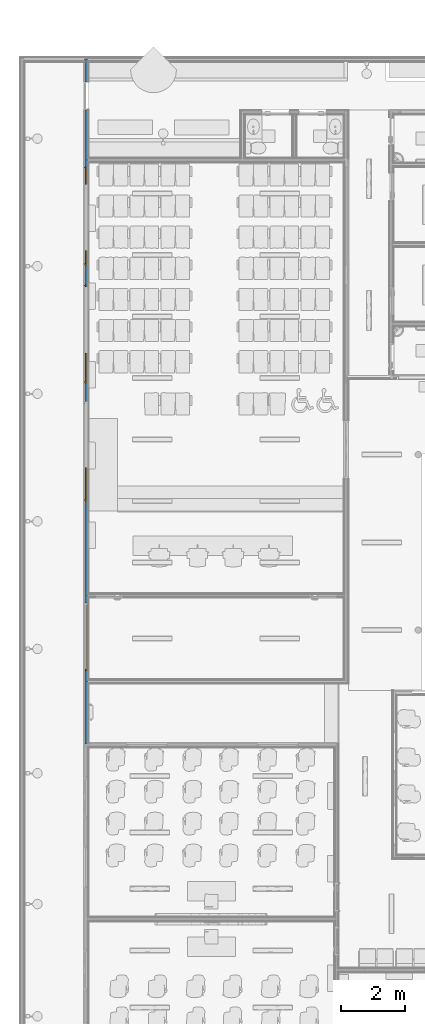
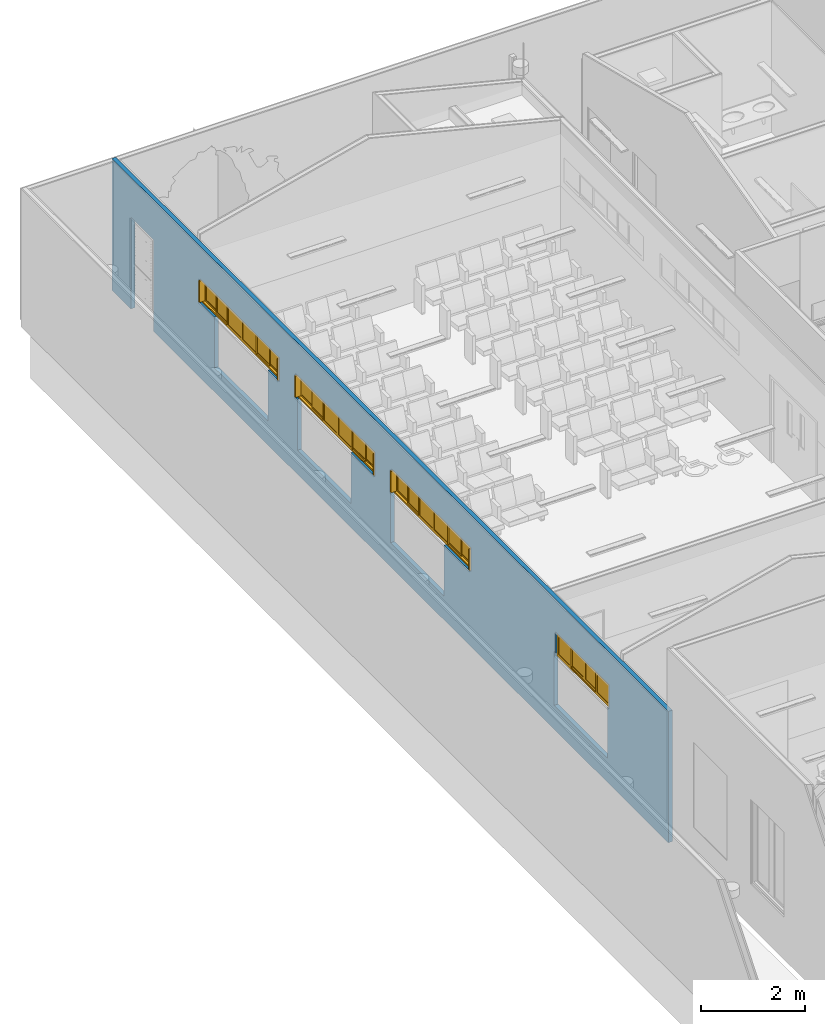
# One storey, part 26 of 155: 4 windows, 1 wall, 9 openings.
"""IFC2X3 building model written with IfcOpenShell, lengths in metres."""

import ifcopenshell
import ifcopenshell.guid

model = None  # the IFC model being written
_history = None  # IfcOwnerHistory: only IFC2X3 demands one
_inside = {}  # id of a spatial element -> (the spatial element, [elements in it])
_under = {}  # id of a project, library or spatial element -> (it, [spatial elements below it])
_declared = {}  # id of a project -> (the project, [libraries it declares])
_typed = {}  # id of a type object -> (the type object, [elements of that type])
_made_of = {}  # id of a material, layer set ... -> (it, [elements and type objects made of it])


def new_model(schema):
    """Start an empty IFC model of exactly this schema.

    Asked for "IFC4X3", IfcOpenShell would pick the latest addendum, in which some entities
    have other attributes; the version numbers below select the first issue.
    IFC2X3 requires an IfcOwnerHistory on every rooted entity: one is made here for all.
    """
    global model, _history
    if schema == "IFC4X3":
        model = ifcopenshell.file(schema_version=(4, 3, 0, 0))
    else:
        model = ifcopenshell.file(schema=schema)
    _inside.clear()
    _under.clear()
    _declared.clear()
    _typed.clear()
    _made_of.clear()
    _history = None
    if model.schema == "IFC2X3":
        org = make("IfcOrganization", Name="unknown")
        user = make(
            "IfcPersonAndOrganization",
            ThePerson=make("IfcPerson", FamilyName="unknown"),
            TheOrganization=org,
        )
        app = make(
            "IfcApplication",
            ApplicationDeveloper=org,
            Version="unknown",
            ApplicationFullName="unknown",
            ApplicationIdentifier="unknown",
        )
        _history = make(
            "IfcOwnerHistory",
            OwningUser=user,
            OwningApplication=app,
            ChangeAction="ADDED",
            CreationDate=0,
        )
    return model


def make(cls, **values):
    """One entity of the class cls with the attributes given. An attribute that is None is left unset."""
    return model.create_entity(
        cls, **{name: value for name, value in values.items() if value is not None}
    )


def entity(cls, *values):
    """Any entity or typed value of the class cls, its attributes in the order of the schema. None: left unset."""
    e = model.create_entity(cls)
    for i, value in enumerate(values):
        if value is not None:
            e[i] = value
    return e


def rooted(cls, **values):
    """An entity with a GlobalId (a new one), such as an element, a storey or a relation."""
    return make(cls, GlobalId=ifcopenshell.guid.new(), OwnerHistory=_history, **values)


def si_unit(unit_type, name, prefix=None):
    """IfcSIUnit, for example si_unit("LENGTHUNIT", "METRE", prefix="MILLI")."""
    return make("IfcSIUnit", UnitType=unit_type, Prefix=prefix, Name=name)


def converted_unit(unit_type, name, factor, base, dimensions=None, offset=None):
    """IfcConversionBasedUnit, such as the inch: factor (a typed value) times the base unit."""
    return make(
        "IfcConversionBasedUnit"
        if offset is None
        else "IfcConversionBasedUnitWithOffset",
        ConversionOffset=offset,
        Dimensions=None
        if dimensions is None
        else entity("IfcDimensionalExponents", *dimensions),
        UnitType=unit_type,
        Name=name,
        ConversionFactor=make(
            "IfcMeasureWithUnit", ValueComponent=factor, UnitComponent=base
        ),
    )


def derived_unit(unit_type, elements):
    """IfcDerivedUnit: a product of units, each with its exponent."""
    return make(
        "IfcDerivedUnit",
        Elements=[
            make("IfcDerivedUnitElement", Unit=unit, Exponent=power)
            for unit, power in elements
        ],
        UnitType=unit_type,
    )


def assignment(units):
    """IfcUnitAssignment: the units of a project."""
    return None if units is None else make("IfcUnitAssignment", Units=units)


def point(xyz):
    """IfcCartesianPoint."""
    return None if xyz is None else make("IfcCartesianPoint", Coordinates=xyz)


def direction(xyz):
    """IfcDirection."""
    return None if xyz is None else make("IfcDirection", DirectionRatios=xyz)


def frame(location, z_axis=None, x_axis=None):
    """IfcAxis2Placement3D, a coordinate frame: its origin and axes. An axis left out is left unset."""
    return make(
        "IfcAxis2Placement3D",
        Location=point(location),
        Axis=direction(z_axis),
        RefDirection=direction(x_axis),
    )


def frame_2d(location, x_axis=None):
    """IfcAxis2Placement2D, a coordinate frame in the plane: its origin and x axis."""
    return make(
        "IfcAxis2Placement2D", Location=point(location), RefDirection=direction(x_axis)
    )


def origin():
    """The frame at (0, 0, 0) with its axes left unset."""
    return frame((0.0, 0.0, 0.0))


def origin_2d_with_axis():
    """The frame at (0, 0) in the plane with the x axis (1, 0) written out."""
    return frame_2d((0.0, 0.0), x_axis=(1.0, 0.0))


def place(relative_to, where):
    """IfcLocalPlacement: puts the frame where relative to a parent placement (None: the world)."""
    return make(
        "IfcLocalPlacement", PlacementRelTo=relative_to, RelativePlacement=where
    )


def context(
    kind, dimensions, precision=None, world=None, true_north=None, identifier=None
):
    """IfcGeometricRepresentationContext, for example the 3D "Model" context."""
    return make(
        "IfcGeometricRepresentationContext",
        ContextIdentifier=identifier,
        ContextType=kind,
        CoordinateSpaceDimension=dimensions,
        Precision=precision,
        WorldCoordinateSystem=world,
        TrueNorth=true_north,
    )


def subcontext(parent, identifier, kind, view, scale=None):
    """IfcGeometricRepresentationSubContext, for example "Body" below "Model"."""
    return make(
        "IfcGeometricRepresentationSubContext",
        ContextIdentifier=identifier,
        ContextType=kind,
        ParentContext=parent,
        TargetScale=scale,
        TargetView=view,
    )


def project(units=None, contexts=None):
    """IfcProject with its units and contexts."""
    return rooted(
        "IfcProject",
        Name="project",
        RepresentationContexts=contexts,
        UnitsInContext=assignment(units),
    )


def spatial(cls, under=None, at=None, **own):
    """A site, building, storey or space (cls), placed at a placement, below another one or the project."""
    s = rooted(cls, ObjectPlacement=at, **own)
    if under is not None:
        _under.setdefault(under.id(), (under, []))[1].append(s)
    return s


def polyline(points):
    """IfcPolyline through the points."""
    return make("IfcPolyline", Points=[point(p) for p in points])


def profile(cls, at=None, kind="AREA", **sizes):
    """A parametric profile (cls). Its sizes go by their IFC names, for example OverallWidth=200.0."""
    return make(cls, ProfileType=kind, Position=at, **sizes)


def rectangle(**sizes):
    """IfcRectangleProfileDef."""
    return profile("IfcRectangleProfileDef", **sizes)


def outline(outer, holes=None, kind="AREA"):
    """IfcArbitraryClosedProfileDef: a profile drawn as a closed curve; with holes, ...WithVoids."""
    if holes is None:
        return make("IfcArbitraryClosedProfileDef", ProfileType=kind, OuterCurve=outer)
    return make(
        "IfcArbitraryProfileDefWithVoids",
        ProfileType=kind,
        OuterCurve=outer,
        InnerCurves=holes,
    )


def extrude(swept, where, along, depth):
    """IfcExtrudedAreaSolid: the profile swept, set in the frame where, extruded along a direction by depth."""
    return make(
        "IfcExtrudedAreaSolid",
        SweptArea=swept,
        Position=where,
        ExtrudedDirection=direction(along),
        Depth=depth,
    )


def shape(context_of_items, identifier, shape_type, items):
    """IfcShapeRepresentation: the items that make up one representation, for example the "Body"."""
    return make(
        "IfcShapeRepresentation",
        ContextOfItems=context_of_items,
        RepresentationIdentifier=identifier,
        RepresentationType=shape_type,
        Items=items,
    )


def source(mapping_origin, context_of_items, identifier, shape_type, items):
    """IfcRepresentationMap: a shape defined once, which mapped items show again and again."""
    return make(
        "IfcRepresentationMap",
        MappingOrigin=mapping_origin,
        MappedRepresentation=shape(context_of_items, identifier, shape_type, items),
    )


def transform(
    local_origin,
    x_axis=None,
    y_axis=None,
    z_axis=None,
    scale=None,
    scale2=None,
    scale3=None,
    uniform=True,
):
    """IfcCartesianTransformationOperator3D, or its non-uniform kind. x_axis, y_axis, z_axis: its Axis1, 2, 3."""
    if uniform:
        return make(
            "IfcCartesianTransformationOperator3D",
            Axis1=direction(x_axis),
            Axis2=direction(y_axis),
            LocalOrigin=point(local_origin),
            Scale=scale,
            Axis3=direction(z_axis),
        )
    return make(
        "IfcCartesianTransformationOperator3DnonUniform",
        Axis1=direction(x_axis),
        Axis2=direction(y_axis),
        LocalOrigin=point(local_origin),
        Scale=scale,
        Axis3=direction(z_axis),
        Scale2=scale2,
        Scale3=scale3,
    )


def mapped(mapping_source, mapping_target):
    """IfcMappedItem: shows the shape of a source again, moved by a transform."""
    return make(
        "IfcMappedItem", MappingSource=mapping_source, MappingTarget=mapping_target
    )


def material(Name=None, Category=None):
    """IfcMaterial."""
    return make("IfcMaterial", Name=Name, Category=Category)


def material_list(materials):
    """IfcMaterialList."""
    return make("IfcMaterialList", Materials=materials)


def layer(
    of_material, thickness, ventilated=None, Name=None, Category=None, Priority=None
):
    """IfcMaterialLayer: one layer of a wall or slab, of a material (None: an air gap)."""
    return make(
        "IfcMaterialLayer",
        Material=of_material,
        LayerThickness=thickness,
        IsVentilated=ventilated,
        Name=Name,
        Category=Category,
        Priority=Priority,
    )


def layer_set(layers, Name=None):
    """IfcMaterialLayerSet."""
    return make("IfcMaterialLayerSet", MaterialLayers=layers, LayerSetName=Name)


def layer_usage(for_layer_set, set_direction, sense, offset, extent=None):
    """IfcMaterialLayerSetUsage: how a layer set lies in its element."""
    return make(
        "IfcMaterialLayerSetUsage",
        ForLayerSet=for_layer_set,
        LayerSetDirection=set_direction,
        DirectionSense=sense,
        OffsetFromReferenceLine=offset,
        ReferenceExtent=extent,
    )


def made_of(thing, what):
    """Note that an element or type object is made of a material, layer set ...; save() writes the relation."""
    if what is not None:
        _made_of.setdefault(what.id(), (what, []))[1].append(thing)
    return thing


def type_object(cls, material=None, **own):
    """A type object (cls), such as IfcWallType, which elements share."""
    return made_of(rooted(cls, **own), material)


def type_shapes(of_type, sources):
    """Give a type object the sources (RepresentationMaps) that its elements show as mapped items."""
    of_type.RepresentationMaps = sources


def element(
    cls,
    number,
    at=None,
    inside=None,
    cuts=None,
    type_object=None,
    material=None,
    context=None,
    identifier="Body",
    shape_type=None,
    held_by="IfcProductDefinitionShape",
    body=None,
    shapes=None,
    **own,
):
    """One element of the class cls, such as IfcWall. Its Tag is "e" and its number.

    at: its placement. inside: the storey or other place that contains it. cuts: it is an
    opening in that element (IfcRelVoidsElement). A single representation is given by context,
    identifier, shape_type and body (its items); several are given by shapes. held_by: the class
    of the entity that holds the representations. save() writes the other relations.
    """
    e = rooted(cls, Tag="e%d" % number, ObjectPlacement=at, **own)
    if body is not None:
        shapes = [shape(context, identifier, shape_type, body)]
    if shapes is not None:
        e.Representation = make(held_by, Representations=shapes)
    if inside is not None:
        _inside.setdefault(inside.id(), (inside, []))[1].append(e)
    if cuts is not None:
        rooted(
            "IfcRelVoidsElement", RelatingBuildingElement=cuts, RelatedOpeningElement=e
        )
    if type_object is not None:
        _typed.setdefault(type_object.id(), (type_object, []))[1].append(e)
    return made_of(e, material)


def fill(opening, filler):
    """IfcRelFillsElement: the door or window that sits in an opening."""
    return rooted(
        "IfcRelFillsElement",
        RelatingOpeningElement=opening,
        RelatedBuildingElement=filler,
    )


def aggregate(whole, parts):
    """IfcRelAggregates: a whole, such as a stair, and the parts it consists of."""
    return rooted("IfcRelAggregates", RelatingObject=whole, RelatedObjects=parts)


def save(model, path):
    """Write the relations noted so far, then the file.

    IfcRelAggregates (storeys below a building ...), IfcRelContainedInSpatialStructure (elements
    in a storey), IfcRelDefinesByType, IfcRelAssociatesMaterial and IfcRelDeclares: one each for
    every whole, place, type object, material and project.
    """
    for whole, parts in _under.values():
        aggregate(whole, parts)
    for where, things in _inside.values():
        rooted(
            "IfcRelContainedInSpatialStructure",
            RelatedElements=things,
            RelatingStructure=where,
        )
    for kind, things in _typed.values():
        rooted("IfcRelDefinesByType", RelatedObjects=things, RelatingType=kind)
    for what, things in _made_of.values():
        rooted("IfcRelAssociatesMaterial", RelatedObjects=things, RelatingMaterial=what)
    for by, libraries in _declared.values():
        rooted("IfcRelDeclares", RelatingContext=by, RelatedDefinitions=libraries)
    model.write(path)


model = new_model("IFC2X3")

# Units and contexts
model_context = context("Model", 3, precision=1e-05, world=origin(), true_north=direction((6.12303176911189e-17, 1.0)))
body_context = subcontext(model_context, "Body", "Model", "MODEL_VIEW")
ifc_project = project(units=[si_unit("LENGTHUNIT", "METRE"), si_unit("AREAUNIT", "SQUARE_METRE"), si_unit("VOLUMEUNIT", "CUBIC_METRE"), converted_unit("PLANEANGLEUNIT", "DEGREE", entity("IfcRatioMeasure", 0.0174532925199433), si_unit("PLANEANGLEUNIT", "RADIAN"), dimensions=[0, 0, 0, 0, 0, 0, 0]), si_unit("MASSUNIT", "GRAM", prefix="KILO"), derived_unit("MASSDENSITYUNIT", [(si_unit("MASSUNIT", "GRAM", prefix="KILO"), 1), (si_unit("LENGTHUNIT", "METRE"), -3)]), si_unit("TIMEUNIT", "SECOND"), si_unit("FREQUENCYUNIT", "HERTZ"), si_unit("THERMODYNAMICTEMPERATUREUNIT", "DEGREE_CELSIUS"), derived_unit("THERMALTRANSMITTANCEUNIT", [(si_unit("MASSUNIT", "GRAM", prefix="KILO"), 1), (si_unit("THERMODYNAMICTEMPERATUREUNIT", "KELVIN"), -1), (si_unit("TIMEUNIT", "SECOND"), -3)]), derived_unit("VOLUMETRICFLOWRATEUNIT", [(si_unit("LENGTHUNIT", "METRE"), 3), (si_unit("TIMEUNIT", "SECOND"), -1)]), si_unit("ELECTRICCURRENTUNIT", "AMPERE"), si_unit("ELECTRICVOLTAGEUNIT", "VOLT"), si_unit("POWERUNIT", "WATT"), si_unit("FORCEUNIT", "NEWTON", prefix="KILO"), si_unit("ILLUMINANCEUNIT", "LUX"), si_unit("LUMINOUSFLUXUNIT", "LUMEN"), si_unit("LUMINOUSINTENSITYUNIT", "CANDELA"), derived_unit("USERDEFINED", [(si_unit("MASSUNIT", "GRAM", prefix="KILO"), -1), (si_unit("LENGTHUNIT", "METRE"), -2), (si_unit("TIMEUNIT", "SECOND"), 3), (si_unit("LUMINOUSFLUXUNIT", "LUMEN"), 1)]), derived_unit("LINEARVELOCITYUNIT", [(si_unit("LENGTHUNIT", "METRE"), 1), (si_unit("TIMEUNIT", "SECOND"), -1)]), si_unit("PRESSUREUNIT", "PASCAL"), derived_unit("USERDEFINED", [(si_unit("LENGTHUNIT", "METRE"), -2), (si_unit("MASSUNIT", "GRAM", prefix="KILO"), 1), (si_unit("TIMEUNIT", "SECOND"), -2)])], contexts=[model_context])

# Site, building, storey
site_placement = place(None, frame((26.9889013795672, -17.5624287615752, 0.0)))
site = spatial("IfcSite", under=ifc_project, at=site_placement, Name="Default", CompositionType="ELEMENT")
building_placement = place(site_placement, origin())
building = spatial("IfcBuilding", under=site, at=building_placement, Name="C. C. L. Monsenhor Antônio Sampaio", CompositionType="ELEMENT")
storey_placement = place(building_placement, frame((0.0, 0.0, 1.19999999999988)))
storey = spatial("IfcBuildingStorey", under=building, at=storey_placement, Name="Nível 1.2", CompositionType="ELEMENT", Elevation=1.19999999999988)

# Wall, openings, windows
ifc_material_1 = material(Name="ALVENARIA")
ifc_layer = layer(ifc_material_1, 0.09)
ifc_layer_set = layer_set([ifc_layer], Name="Parede básica:ENucleo parede 15cm")
ifc_layer_usage = layer_usage(ifc_layer_set, "AXIS2", "POSITIVE", -0.045)
wall_type = type_object("IfcWallType", Name="Parede básica:ENucleo parede 15cm", PredefinedType="STANDARD", material=ifc_layer_set)
wall_placement = place(storey_placement, frame((-14.065552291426, -28.333066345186, 0.0), z_axis=(0.0, 0.0, 1.0), x_axis=(0.0, 1.0, 0.0)))
wall = element("IfcWallStandardCase", 1, at=wall_placement, inside=storey, type_object=wall_type, material=ifc_layer_usage, Name="Parede básica:ENucleo parede 15cm", ObjectType="Parede básica:ENucleo parede 15cm", context=body_context, shape_type="SweptSolid", body=[
    extrude(rectangle(XDim=21.4999999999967, YDim=0.0900000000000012, at=frame_2d((10.7499999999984, -1.97758476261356e-16), x_axis=(-1.0, 0.0))), origin(), (0.0, 0.0, 1.0), 3.10000000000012),
])
opening_1_placement = place(wall_placement, frame((15.0250000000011, -0.0450000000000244, 1.76500000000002)))
opening_1 = element("IfcOpeningElement", 2, at=opening_1_placement, cuts=wall, Name="Janela 300x110:300 x 50:1", ObjectType="Opening", context=body_context, shape_type="SweptSolid", body=[
    extrude(rectangle(XDim=0.569999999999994, YDim=3.06999999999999, at=frame_2d((0.284999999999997, 1.535), x_axis=(1.0, 0.0))), frame((0.0, 0.0, 0.0), z_axis=(0.0, 1.0, 0.0), x_axis=(0.0, 0.0, 1.0)), (0.0, 0.0, 1.0), 0.09),
])
opening_2_placement = place(wall_placement, frame((28.333066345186, -14.065552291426, 0.0), z_axis=(0.0, 0.0, 1.0), x_axis=(0.0, -1.0, 0.0)))
element("IfcOpeningElement", 3, at=opening_2_placement, cuts=wall, Name="Parede básica:ENucleo parede 15cm", ObjectType="Opening", context=body_context, shape_type="SweptSolid", body=[
    extrude(rectangle(XDim=1.27000000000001, YDim=2.07, at=frame_2d((1.11022302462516e-15, 1.66533453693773e-16), x_axis=(0.0, 1.0))), frame((-12.496552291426, -11.8330663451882, 1.20000000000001), z_axis=(-1.0, 0.0, 0.0), x_axis=(0.0, -1.0, 0.0)), (0.0, 0.0, 1.0), 3.048),
])
opening_3_placement = place(wall_placement, frame((11.3250000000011, -0.0450000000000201, 1.76500000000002)))
opening_3 = element("IfcOpeningElement", 4, at=opening_3_placement, cuts=wall, Name="Janela 300x110:300 x 50:1", ObjectType="Opening", context=body_context, shape_type="SweptSolid", body=[
    extrude(rectangle(XDim=0.569999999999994, YDim=3.06999999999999, at=frame_2d((0.284999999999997, 1.535), x_axis=(1.0, 0.0))), frame((0.0, 0.0, 0.0), z_axis=(0.0, 1.0, 0.0), x_axis=(0.0, 0.0, 1.0)), (0.0, 0.0, 1.0), 0.09),
])
opening_4_placement = place(wall_placement, frame((28.333066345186, -14.065552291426, 0.0), z_axis=(0.0, 0.0, 1.0), x_axis=(0.0, -1.0, 0.0)))
element("IfcOpeningElement", 5, at=opening_4_placement, cuts=wall, Name="Parede básica:ENucleo parede 15cm", ObjectType="Opening", context=body_context, shape_type="SweptSolid", body=[
    extrude(rectangle(XDim=1.27000000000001, YDim=2.07, at=frame_2d((1.11022302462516e-15, 1.66533453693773e-16), x_axis=(0.0, 1.0))), frame((-12.496552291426, -15.0330663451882, 1.20000000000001), z_axis=(-1.0, 0.0, 0.0), x_axis=(0.0, -1.0, 0.0)), (0.0, 0.0, 1.0), 3.048),
])
opening_5_placement = place(wall_placement, frame((7.62500000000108, -0.0450000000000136, 1.76500000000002)))
opening_5 = element("IfcOpeningElement", 6, at=opening_5_placement, cuts=wall, Name="Janela 300x110:300 x 50:1", ObjectType="Opening", context=body_context, shape_type="SweptSolid", body=[
    extrude(rectangle(XDim=0.569999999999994, YDim=3.06999999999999, at=frame_2d((0.284999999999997, 1.535), x_axis=(1.0, 0.0))), frame((0.0, 0.0, 0.0), z_axis=(0.0, 1.0, 0.0), x_axis=(0.0, 0.0, 1.0)), (0.0, 0.0, 1.0), 0.09),
])
opening_6_placement = place(wall_placement, frame((28.333066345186, -14.065552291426, 0.0), z_axis=(0.0, 0.0, 1.0), x_axis=(0.0, -1.0, 0.0)))
element("IfcOpeningElement", 7, at=opening_6_placement, cuts=wall, Name="Parede básica:ENucleo parede 15cm", ObjectType="Opening", context=body_context, shape_type="SweptSolid", body=[
    extrude(rectangle(XDim=1.27000000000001, YDim=2.07, at=frame_2d((0.0, 1.66533453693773e-16), x_axis=(0.0, 1.0))), frame((-12.496552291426, -18.6330663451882, 1.20000000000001), z_axis=(-1.0, 0.0, 0.0), x_axis=(0.0, -1.0, 0.0)), (0.0, 0.0, 1.0), 3.048),
])
opening_7_placement = place(wall_placement, frame((2.28500000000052, -0.045000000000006, 1.76500000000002)))
opening_7 = element("IfcOpeningElement", 8, at=opening_7_placement, cuts=wall, Name="Janela 200x110:200 x 50:1", ObjectType="Opening", context=body_context, shape_type="SweptSolid", body=[
    extrude(rectangle(XDim=0.570000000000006, YDim=2.07, at=frame_2d((0.285000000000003, 1.035), x_axis=(1.0, 0.0))), frame((0.0, 0.0, 0.0), z_axis=(0.0, 1.0, 0.0), x_axis=(0.0, 0.0, 1.0)), (0.0, 0.0, 1.0), 0.09),
])
opening_8_placement = place(wall_placement, frame((28.333066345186, -14.065552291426, 0.0), z_axis=(0.0, 0.0, 1.0), x_axis=(0.0, -1.0, 0.0)))
element("IfcOpeningElement", 9, at=opening_8_placement, cuts=wall, Name="Parede básica:ENucleo parede 15cm", ObjectType="Opening", context=body_context, shape_type="SweptSolid", body=[
    extrude(rectangle(XDim=1.27000000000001, YDim=2.07, at=frame_2d((0.0, 1.66533453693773e-16), x_axis=(0.0, 1.0))), frame((-12.496552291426, -24.9530663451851, 1.20000000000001), z_axis=(-1.0, 0.0, 0.0), x_axis=(0.0, -1.0, 0.0)), (0.0, 0.0, 1.0), 3.048),
])
opening_9_placement = place(wall_placement, frame((19.8799999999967, -0.0450000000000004, 0.0)))
element("IfcOpeningElement", 10, at=opening_9_placement, cuts=wall, Name="Porta de abrir com veneziana ventilada - PAVV:LIXEIRA E CASA DE GÁS:1", ObjectType="Opening", context=body_context, shape_type="SweptSolid", body=[
    extrude(rectangle(XDim=2.15999999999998, YDim=0.88, at=frame_2d((1.07999999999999, 0.439999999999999), x_axis=(1.0, 0.0))), frame((0.0, 0.0, 0.0), z_axis=(0.0, 1.0, 0.0), x_axis=(0.0, 0.0, 1.0)), (0.0, 0.0, 1.0), 0.09),
])
ifc_material_2 = material(Name="VIDRO COMUM LISO VERDE")
ifc_material_3 = material(Name="ALUMÍNIO COM PINTURA ELETROSTÁTICA BRANCA")
ifc_material_list_1 = material_list([ifc_material_2, ifc_material_3])
ifc_material_list_2 = material_list([ifc_material_2, ifc_material_3])
window_style_1 = type_object("IfcWindowStyle", Name="300 x 50", ConstructionType="NOTDEFINED", OperationType="NOTDEFINED", ParameterTakesPrecedence=False, Sizeable=False, material=ifc_material_list_2)
shared_shape_1 = source(origin(), body_context, "Body", "SweptSolid", [
    extrude(rectangle(XDim=0.49, YDim=0.00599999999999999, at=origin_2d_with_axis()), frame((1.255, 0.0324999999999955, 0.0699999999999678), z_axis=(0.0, 0.0, 1.0), x_axis=(-1.0, 0.0, 0.0)), (0.0, 0.0, 1.0), 0.43),
    extrude(outline(polyline([(-0.250000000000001, -0.28), (0.250000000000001, -0.28), (0.250000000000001, 0.28), (-0.250000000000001, 0.28), (-0.250000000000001, -0.28)]), holes=[polyline([(-0.215000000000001, -0.245), (-0.215000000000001, 0.245), (0.215000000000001, 0.245), (0.215000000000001, -0.245), (-0.215000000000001, -0.245)])]), frame((1.255, 0.0199999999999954, 0.284999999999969), z_axis=(0.0, 1.0, 0.0), x_axis=(0.0, 0.0, -1.0)), (0.0, 0.0, 1.0), 0.025),
    extrude(rectangle(XDim=0.49, YDim=0.00599999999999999, at=frame_2d((-1.38777878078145e-16, 0.0), x_axis=(1.0, 0.0))), frame((0.314999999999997, -0.0175, 0.0699999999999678), z_axis=(0.0, 0.0, 1.0), x_axis=(-1.0, 0.0, 0.0)), (0.0, 0.0, 1.0), 0.43),
    extrude(outline(polyline([(-0.250000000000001, -0.28), (0.250000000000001, -0.28), (0.250000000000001, 0.28), (-0.250000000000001, 0.28), (-0.250000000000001, -0.28)]), holes=[polyline([(-0.215000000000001, -0.245), (-0.215000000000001, 0.245), (0.215000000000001, 0.245), (0.215000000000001, -0.245), (-0.215000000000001, -0.245)])]), frame((0.314999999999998, -0.0300000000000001, 0.284999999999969), z_axis=(0.0, 1.0, 0.0), x_axis=(0.0, 0.0, -1.0)), (0.0, 0.0, 1.0), 0.025),
    extrude(rectangle(XDim=0.49, YDim=0.00599999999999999, at=origin_2d_with_axis()), frame((0.784403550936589, 0.00749999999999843, 0.0699999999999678), z_axis=(0.0, 0.0, 1.0), x_axis=(-1.0, 0.0, 0.0)), (0.0, 0.0, 1.0), 0.43),
    extrude(outline(polyline([(-0.250000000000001, -0.28), (0.250000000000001, -0.28), (0.250000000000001, 0.28), (-0.250000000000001, 0.28), (-0.250000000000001, -0.28)]), holes=[polyline([(-0.215000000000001, -0.245), (-0.215000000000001, 0.245), (0.215000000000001, 0.245), (0.215000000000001, -0.245), (-0.215000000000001, -0.245)])]), frame((0.784403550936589, -0.00500000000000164, 0.284999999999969), z_axis=(0.0, 1.0, 0.0), x_axis=(0.0, 0.0, -1.0)), (0.0, 0.0, 1.0), 0.025),
    extrude(rectangle(XDim=0.00599999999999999, YDim=0.49, at=origin_2d_with_axis()), frame((1.81499999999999, 0.0324999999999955, 0.0699999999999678), z_axis=(0.0, 0.0, 1.0), x_axis=(0.0, -1.0, 0.0)), (0.0, 0.0, 1.0), 0.43),
    extrude(outline(polyline([(-0.28, -0.250000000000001), (0.28, -0.250000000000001), (0.28, 0.250000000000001), (-0.28, 0.250000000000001), (-0.28, -0.250000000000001)]), holes=[polyline([(-0.245, -0.215000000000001), (-0.245, 0.215000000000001), (0.245, 0.215000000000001), (0.245, -0.215000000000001), (-0.245, -0.215000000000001)])]), frame((1.81499999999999, 0.0199999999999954, 0.284999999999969), z_axis=(0.0, 1.0, 0.0), x_axis=(1.0, 0.0, 0.0)), (0.0, 0.0, 1.0), 0.025),
    extrude(rectangle(XDim=0.00599999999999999, YDim=0.49, at=frame_2d((0.0, 1.38777878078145e-16), x_axis=(1.0, 0.0))), frame((2.75499999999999, -0.0175, 0.0699999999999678), z_axis=(0.0, 0.0, 1.0), x_axis=(0.0, -1.0, 0.0)), (0.0, 0.0, 1.0), 0.43),
    extrude(outline(polyline([(-0.28, -0.250000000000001), (0.28, -0.250000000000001), (0.28, 0.250000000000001), (-0.28, 0.250000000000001), (-0.28, -0.250000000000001)]), holes=[polyline([(-0.245, -0.215000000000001), (-0.245, 0.215000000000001), (0.245, 0.215000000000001), (0.245, -0.215000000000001), (-0.245, -0.215000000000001)])]), frame((2.75499999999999, -0.0300000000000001, 0.284999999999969), z_axis=(0.0, 1.0, 0.0), x_axis=(1.0, 0.0, 0.0)), (0.0, 0.0, 1.0), 0.025),
    extrude(rectangle(XDim=0.00599999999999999, YDim=0.49, at=origin_2d_with_axis()), frame((2.2855964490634, 0.00749999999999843, 0.0699999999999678), z_axis=(0.0, 0.0, 1.0), x_axis=(0.0, -1.0, 0.0)), (0.0, 0.0, 1.0), 0.43),
    extrude(outline(polyline([(-0.28, -0.250000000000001), (0.28, -0.250000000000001), (0.28, 0.250000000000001), (-0.28, 0.250000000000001), (-0.28, -0.250000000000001)]), holes=[polyline([(-0.245, -0.215000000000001), (-0.245, 0.215000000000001), (0.245, 0.215000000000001), (0.245, -0.215000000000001), (-0.245, -0.215000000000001)])]), frame((2.2855964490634, -0.00500000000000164, 0.284999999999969), z_axis=(0.0, 1.0, 0.0), x_axis=(1.0, 0.0, 0.0)), (0.0, 0.0, 1.0), 0.025),
    extrude(rectangle(XDim=0.075, YDim=3.07, at=origin_2d_with_axis()), frame((1.535, 0.0075, 0.0), z_axis=(0.0, 0.0, 1.0), x_axis=(0.0, -1.0, 0.0)), (0.0, 0.0, 1.0), 0.0349999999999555),
    extrude(rectangle(XDim=0.15, YDim=0.0349999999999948, at=origin_2d_with_axis()), frame((3.05249999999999, 0.045, 0.0349999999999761), z_axis=(0.0, 0.0, 1.0), x_axis=(0.0, -1.0, 0.0)), (0.0, 0.0, 1.0), 0.500000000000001),
    extrude(rectangle(XDim=0.15, YDim=0.0349999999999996, at=origin_2d_with_axis()), frame((0.0174999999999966, 0.045, 0.0349999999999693), z_axis=(0.0, 0.0, 1.0), x_axis=(0.0, -1.0, 0.0)), (0.0, 0.0, 1.0), 0.500000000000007),
    extrude(rectangle(XDim=0.075, YDim=3.06999999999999, at=frame_2d((3.46944695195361e-18, 0.0), x_axis=(1.0, 0.0))), frame((1.535, 0.0075, 0.534999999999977), z_axis=(0.0, 0.0, 1.0), x_axis=(0.0, -1.0, 0.0)), (0.0, 0.0, 1.0), 0.0350000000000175),
])
type_shapes(window_style_1, [shared_shape_1])
window_1_placement = place(opening_1_placement, origin())
window_1 = element("IfcWindow", 11, at=window_1_placement, inside=storey, type_object=window_style_1, material=ifc_material_list_1, Name="Janela 300x110:300 x 50", ObjectType="300 x 50", OverallHeight=0.569999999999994, OverallWidth=3.07, context=body_context, shape_type="MappedRepresentation", body=[
    mapped(shared_shape_1, transform((0.0, 0.0, 0.0), scale=1.0)),
])
fill(opening_1, window_1)
ifc_material_list_3 = material_list([ifc_material_2, ifc_material_3])
window_2_placement = place(opening_3_placement, origin())
window_2 = element("IfcWindow", 12, at=window_2_placement, inside=storey, type_object=window_style_1, material=ifc_material_list_3, Name="Janela 300x110:300 x 50", ObjectType="300 x 50", OverallHeight=0.569999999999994, OverallWidth=3.07, context=body_context, shape_type="MappedRepresentation", body=[
    mapped(shared_shape_1, transform((0.0, 0.0, 0.0), scale=1.0)),
])
fill(opening_3, window_2)
ifc_material_list_4 = material_list([ifc_material_2, ifc_material_3])
window_3_placement = place(opening_5_placement, origin())
window_3 = element("IfcWindow", 13, at=window_3_placement, inside=storey, type_object=window_style_1, material=ifc_material_list_4, Name="Janela 300x110:300 x 50", ObjectType="300 x 50", OverallHeight=0.569999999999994, OverallWidth=3.07, context=body_context, shape_type="MappedRepresentation", body=[
    mapped(shared_shape_1, transform((0.0, 0.0, 0.0), scale=1.0)),
])
fill(opening_5, window_3)
ifc_material_list_5 = material_list([ifc_material_2, ifc_material_3])
ifc_material_list_6 = material_list([ifc_material_2, ifc_material_3])
window_style_2 = type_object("IfcWindowStyle", Name="200 x 50", ConstructionType="NOTDEFINED", OperationType="NOTDEFINED", ParameterTakesPrecedence=False, Sizeable=False, material=ifc_material_list_6)
shared_shape_2 = source(origin(), body_context, "Body", "SweptSolid", [
    extrude(rectangle(XDim=0.425, YDim=0.00599999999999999, at=origin_2d_with_axis()), frame((1.7725, 0.058375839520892, 0.0849999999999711), z_axis=(0.0, 0.0, 1.0), x_axis=(-1.0, 0.0, 0.0)), (0.0, 0.0, 1.0), 0.4),
    extrude(outline(polyline([(-0.250000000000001, -0.2625), (0.250000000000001, -0.2625), (0.250000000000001, 0.2625), (-0.250000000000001, 0.2625), (-0.250000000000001, -0.2625)]), holes=[polyline([(-0.200000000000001, -0.2125), (-0.200000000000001, 0.2125), (0.200000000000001, 0.2125), (0.200000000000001, -0.2125), (-0.200000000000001, -0.2125)])]), frame((1.7725, 0.0458758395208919, 0.284999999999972), z_axis=(0.0, 1.0, 0.0), x_axis=(0.0, 0.0, -1.0)), (0.0, 0.0, 1.0), 0.025),
    extrude(rectangle(XDim=0.00599999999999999, YDim=0.425, at=origin_2d_with_axis()), frame((1.2975, 0.0333758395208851, 0.0849999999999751), z_axis=(0.0, 0.0, 1.0), x_axis=(0.0, -1.0, 0.0)), (0.0, 0.0, 1.0), 0.4),
    extrude(outline(polyline([(-0.2625, -0.250000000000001), (0.2625, -0.250000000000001), (0.2625, 0.250000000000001), (-0.2625, 0.250000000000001), (-0.2625, -0.250000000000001)]), holes=[polyline([(-0.2125, -0.200000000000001), (-0.2125, 0.200000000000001), (0.2125, 0.200000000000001), (0.2125, -0.200000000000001), (-0.2125, -0.200000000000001)])]), frame((1.2975, 0.020875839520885, 0.284999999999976), z_axis=(0.0, 1.0, 0.0), x_axis=(1.0, 0.0, 0.0)), (0.0, 0.0, 1.0), 0.025),
    extrude(rectangle(XDim=0.00599999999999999, YDim=0.425, at=frame_2d((0.0, 2.77555756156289e-17), x_axis=(1.0, 0.0))), frame((0.297499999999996, 0.058375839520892, 0.0849999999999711), z_axis=(0.0, 0.0, 1.0), x_axis=(0.0, -1.0, 0.0)), (0.0, 0.0, 1.0), 0.4),
    extrude(outline(polyline([(-0.2625, -0.250000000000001), (0.2625, -0.250000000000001), (0.2625, 0.250000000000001), (-0.2625, 0.250000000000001), (-0.2625, -0.250000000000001)]), holes=[polyline([(-0.2125, -0.200000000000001), (-0.2125, 0.200000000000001), (0.2125, 0.200000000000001), (0.2125, -0.200000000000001), (-0.2125, -0.200000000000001)])]), frame((0.297499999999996, 0.0458758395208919, 0.284999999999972), z_axis=(0.0, 1.0, 0.0), x_axis=(1.0, 0.0, 0.0)), (0.0, 0.0, 1.0), 0.025),
    extrude(rectangle(XDim=0.425, YDim=0.00599999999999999, at=origin_2d_with_axis()), frame((0.772499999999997, 0.0333758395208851, 0.0849999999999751), z_axis=(0.0, 0.0, 1.0), x_axis=(-1.0, 0.0, 0.0)), (0.0, 0.0, 1.0), 0.4),
    extrude(outline(polyline([(-0.250000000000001, -0.2625), (0.250000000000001, -0.2625), (0.250000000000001, 0.2625), (-0.250000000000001, 0.2625), (-0.250000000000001, -0.2625)]), holes=[polyline([(-0.200000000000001, -0.2125), (-0.200000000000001, 0.2125), (0.200000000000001, 0.2125), (0.200000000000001, -0.2125), (-0.200000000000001, -0.2125)])]), frame((0.772499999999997, 0.020875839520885, 0.284999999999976), z_axis=(0.0, 1.0, 0.0), x_axis=(0.0, 0.0, -1.0)), (0.0, 0.0, 1.0), 0.025),
    extrude(rectangle(XDim=0.06, YDim=0.0349999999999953, at=origin_2d_with_axis()), frame((2.05249999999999, 0.03, 0.0349999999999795), z_axis=(0.0, 0.0, 1.0), x_axis=(0.0, -1.0, 0.0)), (0.0, 0.0, 1.0), 0.500000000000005),
    extrude(rectangle(XDim=0.06, YDim=0.0349999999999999, at=origin_2d_with_axis()), frame((0.0174999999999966, 0.03, 0.0349999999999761), z_axis=(0.0, 0.0, 1.0), x_axis=(0.0, -1.0, 0.0)), (0.0, 0.0, 1.0), 0.500000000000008),
    extrude(rectangle(XDim=0.06, YDim=2.07, at=origin_2d_with_axis()), frame((1.035, 0.03, 0.0), z_axis=(0.0, 0.0, 1.0), x_axis=(0.0, -1.0, 0.0)), (0.0, 0.0, 1.0), 0.0349999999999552),
    extrude(rectangle(XDim=0.03, YDim=2.07, at=origin_2d_with_axis()), frame((1.035, 0.015, 0.534999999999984), z_axis=(0.0, 0.0, 1.0), x_axis=(0.0, -1.0, 0.0)), (0.0, 0.0, 1.0), 0.0350000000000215),
])
type_shapes(window_style_2, [shared_shape_2])
window_4_placement = place(opening_7_placement, origin())
window_4 = element("IfcWindow", 14, at=window_4_placement, inside=storey, type_object=window_style_2, material=ifc_material_list_5, Name="Janela 200x110:200 x 50", ObjectType="200 x 50", OverallHeight=0.570000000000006, OverallWidth=2.07, context=body_context, shape_type="MappedRepresentation", body=[
    mapped(shared_shape_2, transform((0.0, 0.0, 0.0), scale=1.0)),
])
fill(opening_7, window_4)

save(model, "model.ifc")
